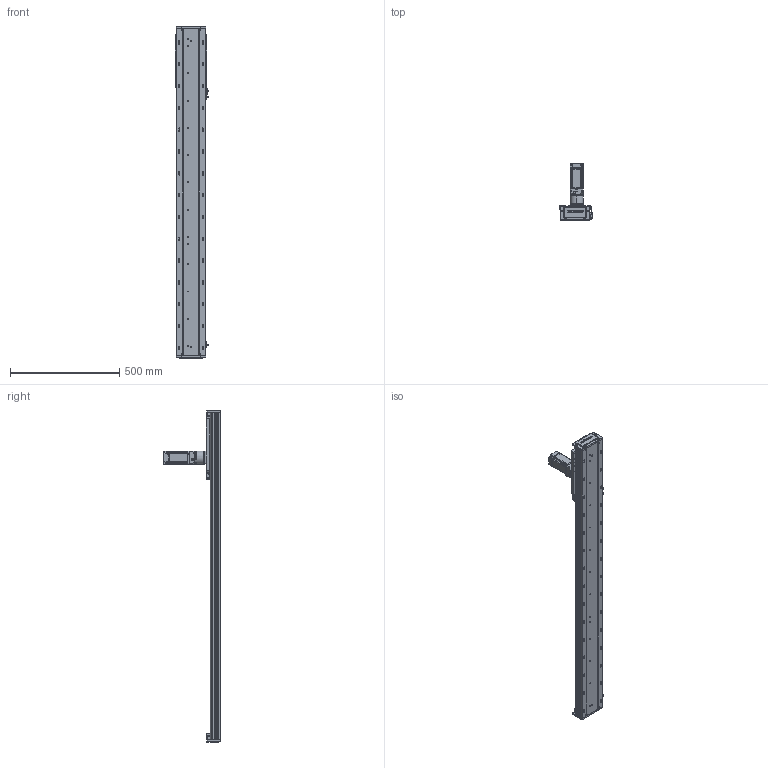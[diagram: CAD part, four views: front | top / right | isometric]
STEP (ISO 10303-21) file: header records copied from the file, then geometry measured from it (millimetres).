
FILE_DESCRIPTION (( 'STEP AP203' ), '1' );
FILE_NAME ('RY140-C-250-UK.SLDASM_1150.step', '2022-03-12T01:58:56', ( '' ), ( '' ), 'SwSTEP 2.0', 'SolidWorks 2016', '' );
FILE_SCHEMA (( 'CONFIG_CONTROL_DESIGN' ));
Length unit declared in the file: millimetre
Products named in the file (12): 15; RY140-C-250-UK.SLDASM_1150; 絳寢賑輸EGH15; RY140-喘謫萇儂覃誹啣; 140蚥薯蝶輸; RY140-300齿条模组型材底座_1150; 60ZDF珨撰俋倛芞T1 200W M4; 覜茼ん672; RY140-喘沭賑輸; RY140-絳寢EGH15-300-MK_1150; RY120外置感应片(140共用）; RY140-喘沭裔啣
Assembly tree (21 placements, depth 2):
  RY140-C-250-UK.SLDASM_1150
    RY140-300齿条模组型材底座_1150
    RY140-絳寢EGH15-300-MK_1150  x2
    絳寢賑輸EGH15  x6
    RY140-喘沭裔啣  x2
    覜茼ん672  x3
    RY140-喘沭賑輸
    RY120外置感应片(140共用）
    RY140-喘謫萇儂覃誹啣
    140蚥薯蝶輸  x2
    60ZDF珨撰俋倛芞T1 200W M4
    15
Bounding box: 153.7 x 263.5 x 1522 mm (x, y, z)
Volume: 5416820.3 mm3; surface area: 1428719 mm2
Topology: 21 solids, 21 shells, 3506 faces, 9334 edges, 6036 vertices
Faces by surface type: plane 1658, cylinder 1554, cone 248, bspline 46
Entity records: 78913 total; most frequent: CARTESIAN_POINT 17257, DIRECTION 12557, ORIENTED_EDGE 12518, EDGE_CURVE 6259, AXIS2_PLACEMENT_3D 4485, VERTEX_POINT 4097, VECTOR 3587, LINE 3587
